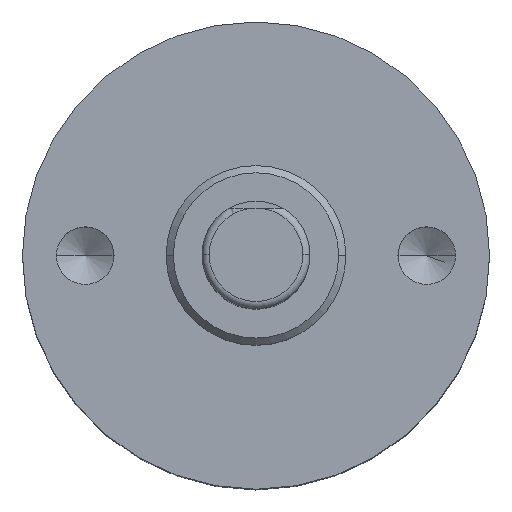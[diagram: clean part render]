
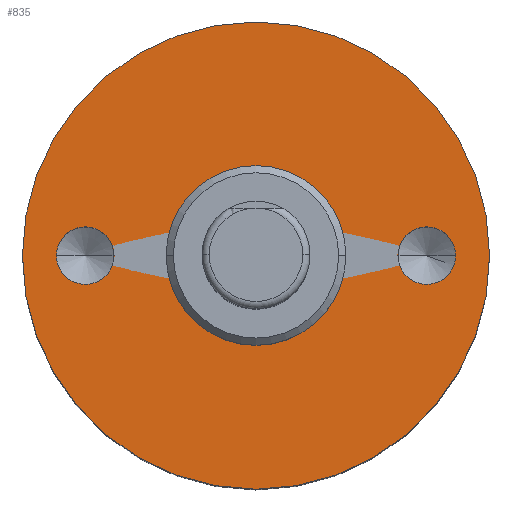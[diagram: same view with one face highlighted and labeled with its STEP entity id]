
A CAD part, top view. The second image highlights one B-rep face of the part: STEP entity #835.
In plain terms, the highlighted planar face has unit normal (0, 0, 1).
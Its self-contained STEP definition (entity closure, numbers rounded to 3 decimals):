
#17 = CARTESIAN_POINT ( 'NONE',  ( 6.5, 0., -13.9 ) ) ;
#42 = PLANE ( 'NONE',  #446 ) ;
#50 = EDGE_LOOP ( 'NONE', ( #181, #345 ) ) ;
#51 = AXIS2_PLACEMENT_3D ( 'NONE', #342, #1484, #1280 ) ;
#98 = CARTESIAN_POINT ( 'NONE',  ( 2.5, 0., -13.9 ) ) ;
#104 = CARTESIAN_POINT ( 'NONE',  ( 4.75, 0., -13.9 ) ) ;
#113 = VERTEX_POINT ( 'NONE', #1117 ) ;
#133 = DIRECTION ( 'NONE',  ( 0., 0., 1. ) ) ;
#171 = AXIS2_PLACEMENT_3D ( 'NONE', #1253, #885, #777 ) ;
#175 = AXIS2_PLACEMENT_3D ( 'NONE', #1475, #678, #1255 ) ;
#181 = ORIENTED_EDGE ( 'NONE', *, *, #545, .F. ) ;
#232 = CIRCLE ( 'NONE', #1478, 2.5 ) ;
#250 = CARTESIAN_POINT ( 'NONE',  ( 0., -2.5, -13.9 ) ) ;
#313 = CARTESIAN_POINT ( 'NONE',  ( -2.5, 0., -13.9 ) ) ;
#326 = AXIS2_PLACEMENT_3D ( 'NONE', #1074, #1209, #1095 ) ;
#342 = CARTESIAN_POINT ( 'NONE',  ( 4.75, 0., -13.9 ) ) ;
#345 = ORIENTED_EDGE ( 'NONE', *, *, #356, .F. ) ;
#356 = EDGE_CURVE ( 'NONE', #599, #725, #763, .T. ) ;
#372 = AXIS2_PLACEMENT_3D ( 'NONE', #104, #1514, #963 ) ;
#374 = EDGE_LOOP ( 'NONE', ( #851, #508 ) ) ;
#375 = CIRCLE ( 'NONE', #1393, 2.5 ) ;
#391 = ORIENTED_EDGE ( 'NONE', *, *, #940, .F. ) ;
#432 = EDGE_CURVE ( 'NONE', #976, #1418, #1342, .T. ) ;
#446 = AXIS2_PLACEMENT_3D ( 'NONE', #250, #832, #1449 ) ;
#476 = CARTESIAN_POINT ( 'NONE',  ( 0., 0., -13.9 ) ) ;
#508 = ORIENTED_EDGE ( 'NONE', *, *, #432, .T. ) ;
#545 = EDGE_CURVE ( 'NONE', #725, #599, #1217, .T. ) ;
#552 = CARTESIAN_POINT ( 'NONE',  ( 0., 0., -13.9 ) ) ;
#553 = CARTESIAN_POINT ( 'NONE',  ( 5.55, 0., -13.9 ) ) ;
#599 = VERTEX_POINT ( 'NONE', #1261 ) ;
#603 = FACE_BOUND ( 'NONE', #1459, .T. ) ;
#632 = CARTESIAN_POINT ( 'NONE',  ( -4.75, 0., -13.9 ) ) ;
#678 = DIRECTION ( 'NONE',  ( 0., 0., 1. ) ) ;
#725 = VERTEX_POINT ( 'NONE', #553 ) ;
#740 = FACE_BOUND ( 'NONE', #836, .T. ) ;
#763 = CIRCLE ( 'NONE', #372, 0.8 ) ;
#764 = DIRECTION ( 'NONE',  ( 1., 0., 0. ) ) ;
#769 = AXIS2_PLACEMENT_3D ( 'NONE', #632, #1192, #1434 ) ;
#777 = DIRECTION ( 'NONE',  ( 1., 0., 0. ) ) ;
#832 = DIRECTION ( 'NONE',  ( 0., 0., 1. ) ) ;
#835 = ADVANCED_FACE ( 'NONE', ( #603, #966, #1322, #740 ), #42, .T. ) ;
#836 = EDGE_LOOP ( 'NONE', ( #1208, #391 ) ) ;
#840 = CIRCLE ( 'NONE', #175, 6.5 ) ;
#851 = ORIENTED_EDGE ( 'NONE', *, *, #1149, .T. ) ;
#885 = DIRECTION ( 'NONE',  ( 0., 0., 1. ) ) ;
#940 = EDGE_CURVE ( 'NONE', #1159, #1013, #375, .T. ) ;
#963 = DIRECTION ( 'NONE',  ( 1., 0., 0. ) ) ;
#966 = FACE_BOUND ( 'NONE', #50, .T. ) ;
#976 = VERTEX_POINT ( 'NONE', #1391 ) ;
#1013 = VERTEX_POINT ( 'NONE', #98 ) ;
#1034 = DIRECTION ( 'NONE',  ( 0., 0., 1. ) ) ;
#1073 = VERTEX_POINT ( 'NONE', #1481 ) ;
#1074 = CARTESIAN_POINT ( 'NONE',  ( -4.75, 0., -13.9 ) ) ;
#1094 = CIRCLE ( 'NONE', #326, 0.8 ) ;
#1095 = DIRECTION ( 'NONE',  ( 1., 0., 0. ) ) ;
#1117 = CARTESIAN_POINT ( 'NONE',  ( -3.95, 0., -13.9 ) ) ;
#1149 = EDGE_CURVE ( 'NONE', #1418, #976, #840, .T. ) ;
#1159 = VERTEX_POINT ( 'NONE', #313 ) ;
#1192 = DIRECTION ( 'NONE',  ( 0., 0., 1. ) ) ;
#1208 = ORIENTED_EDGE ( 'NONE', *, *, #1347, .F. ) ;
#1209 = DIRECTION ( 'NONE',  ( 0., 0., 1. ) ) ;
#1217 = CIRCLE ( 'NONE', #51, 0.8 ) ;
#1253 = CARTESIAN_POINT ( 'NONE',  ( 0., 0., -13.9 ) ) ;
#1255 = DIRECTION ( 'NONE',  ( 1., 0., 0. ) ) ;
#1261 = CARTESIAN_POINT ( 'NONE',  ( 3.95, 0., -13.9 ) ) ;
#1268 = ORIENTED_EDGE ( 'NONE', *, *, #1325, .F. ) ;
#1280 = DIRECTION ( 'NONE',  ( 1., 0., 0. ) ) ;
#1322 = FACE_OUTER_BOUND ( 'NONE', #374, .T. ) ;
#1325 = EDGE_CURVE ( 'NONE', #113, #1073, #1435, .T. ) ;
#1342 = CIRCLE ( 'NONE', #171, 6.5 ) ;
#1343 = DIRECTION ( 'NONE',  ( 1., 0., 0. ) ) ;
#1347 = EDGE_CURVE ( 'NONE', #1013, #1159, #232, .T. ) ;
#1391 = CARTESIAN_POINT ( 'NONE',  ( -6.5, 0., -13.9 ) ) ;
#1393 = AXIS2_PLACEMENT_3D ( 'NONE', #552, #1034, #764 ) ;
#1416 = EDGE_CURVE ( 'NONE', #1073, #113, #1094, .T. ) ;
#1418 = VERTEX_POINT ( 'NONE', #17 ) ;
#1434 = DIRECTION ( 'NONE',  ( 1., 0., 0. ) ) ;
#1435 = CIRCLE ( 'NONE', #769, 0.8 ) ;
#1445 = ORIENTED_EDGE ( 'NONE', *, *, #1416, .F. ) ;
#1449 = DIRECTION ( 'NONE',  ( 1., 0., 0. ) ) ;
#1459 = EDGE_LOOP ( 'NONE', ( #1268, #1445 ) ) ;
#1475 = CARTESIAN_POINT ( 'NONE',  ( 0., 0., -13.9 ) ) ;
#1478 = AXIS2_PLACEMENT_3D ( 'NONE', #476, #133, #1343 ) ;
#1481 = CARTESIAN_POINT ( 'NONE',  ( -5.55, 0., -13.9 ) ) ;
#1484 = DIRECTION ( 'NONE',  ( 0., 0., 1. ) ) ;
#1514 = DIRECTION ( 'NONE',  ( 0., 0., 1. ) ) ;
